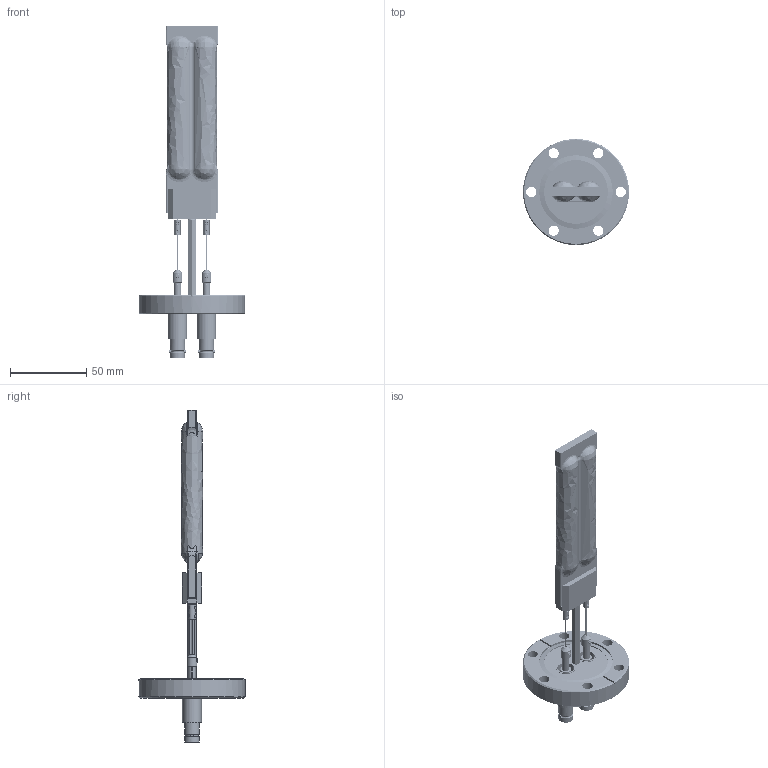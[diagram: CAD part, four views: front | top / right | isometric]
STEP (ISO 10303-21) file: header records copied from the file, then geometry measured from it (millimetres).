
FILE_DESCRIPTION(/* description */ ('STEP AP203'),/* implementation_level */ '2;1');
FILE_NAME(/* name */ 'IRB600_Emitter_Assembly.step',/* time_stamp */ '2026-09-28T13:12:20-07:00',/* author */ (''),/* organization */ (''),/* preprocessor_version */ 'ST-DEVELOPER v20.1',/* originating_system */ 'Autodesk Translation Framework v15.8.0.0',/* authorisation */ '');
FILE_SCHEMA (('AUTOMOTIVE_DESIGN { 1 0 10303 214 3 1 1 }'));
Products named in the file (14): 2026-07-14-15-13-12-160; 2026-07-14-08-17-17-220; 2026-07-14-15-30-18-846; 2026-06-25-15-15-59-515; 2026-07-14-09-01-20-611; 2026-07-14-09-01-23-542; 2026-07-14-11-42-54-540; 2026-07-14-11-43-17-501; 2026-07-16-11-13-59-183; 2026-07-16-11-13-59-183_1; 2026-07-16-20-04-04-900; 2026-07-16-13-51-34-068; 2026-07-16-13-51-36-383; 2026-07-16-22-20-17-209
Assembly tree (17 placements, depth 3):
  2026-07-14-15-13-12-160
    2026-07-14-08-17-17-220
    2026-07-14-15-30-18-846
    2026-06-25-15-15-59-515
      2026-07-14-09-01-20-611
      2026-07-14-09-01-23-542
    2026-07-14-11-42-54-540
      2026-07-14-11-43-17-501
    2026-07-16-11-13-59-183
      2026-07-16-20-04-04-900  x2
    2026-07-16-11-13-59-183_1
      2026-07-16-20-04-04-900  x2
    2026-07-16-13-51-34-068
    2026-07-16-13-51-36-383
    2026-07-16-22-20-17-209  x2
Bounding box: 69.85 x 69.85 x 218.21 mm (x, y, z)
Volume: 70878.2 mm3; surface area: 47881.2 mm2
Topology: 19 solids, 28 shells, 852 faces, 2254 edges, 1456 vertices
Faces by surface type: cylinder 334, plane 192, bspline 177, cone 128, torus 13, sphere 8
Full cylindrical faces by diameter (mm): 1 x15, 1.016 x2, 1.27 x4, 1.3 x6, 1.346 x2, 1.595 x8, 1.646 x6, 1.778 x4, 1.783 x18, 2.083 x2, 2.134 x10, 2.182 x2, 2.184 x36, 2.261 x8, 2.388 x4, 2.438 x2, 2.692 x2, 3.969 x2, 4.75 x2, 4.953 x2, 6.35 x4, 6.426 x2, 6.731 x6, 6.989 x2, 7.036 x2, 7.112 x4, 7.163 x2, 7.29 x2, 7.529 x2, 7.899 x2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
Entity records: 91825 total; most frequent: CARTESIAN_POINT 75529, ORIENTED_EDGE 3820, DIRECTION 2530, EDGE_CURVE 1910, VERTEX_POINT 1255, AXIS2_PLACEMENT_3D 1039, B_SPLINE_CURVE_WITH_KNOTS 957, EDGE_LOOP 799
